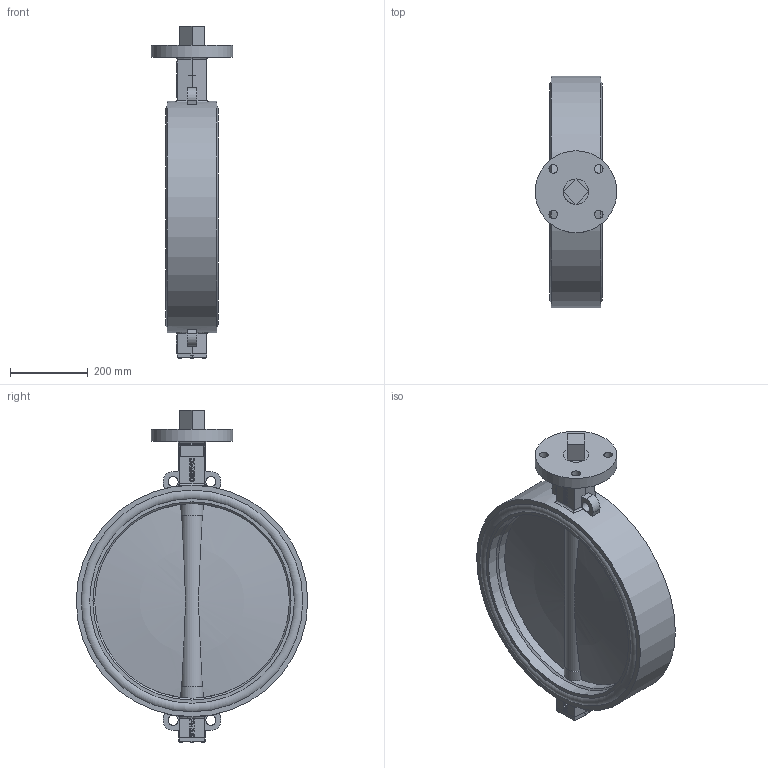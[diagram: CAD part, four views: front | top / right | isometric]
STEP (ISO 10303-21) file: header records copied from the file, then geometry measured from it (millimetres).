
FILE_DESCRIPTION(('STEP AP242'), '1');
FILE_NAME('Ïîâîðîòíûé çàòâîð ïîä ýëåêòðîïðèâîä', '', ('UNSPECIFIED'), ('UNSPECIFIED'), 'C3D Converter', 'C3D Toolkit', '');
FILE_SCHEMA(('AP242_MANAGED_MODEL_BASED_3D_ENGINEERING_MIM_LF { 1 0 10303 442 1 1 4 }'));
Length unit declared in the file: millimetre
Products named in the file (8): П
Assembly tree (11 placements, depth 2):
  (unnamed)
    (unnamed)
    П  x2
    (unnamed)
    (unnamed)
    (unnamed)
    (unnamed)
    (unnamed)  x4
Bounding box: 210 x 594 x 852 mm (x, y, z)
Volume: 18769322.5 mm3; surface area: 2121056.4 mm2
Topology: 11 solids, 11 shells, 524 faces, 1318 edges, 853 vertices
Faces by surface type: plane 261, extrusion 143, cylinder 79, cone 19, torus 10, bspline 8, sphere 4
Full cylindrical faces by diameter (mm): 5 x4, 6 x12, 10 x8, 12.564 x1, 22 x4, 26 x4, 46 x6, 60.325 x4, 65.054 x5, 210 x1, 500 x1, 508.467 x2, 525.4 x2, 547 x4, 568.6 x4, 594 x1
Entity records: 22479 total; most frequent: CARTESIAN_POINT 9819, ORIENTED_EDGE 2196, DIRECTION 1670, EDGE_CURVE 1098, VERTEX_POINT 761, VECTOR 694, EDGE_LOOP 591, LINE 551
